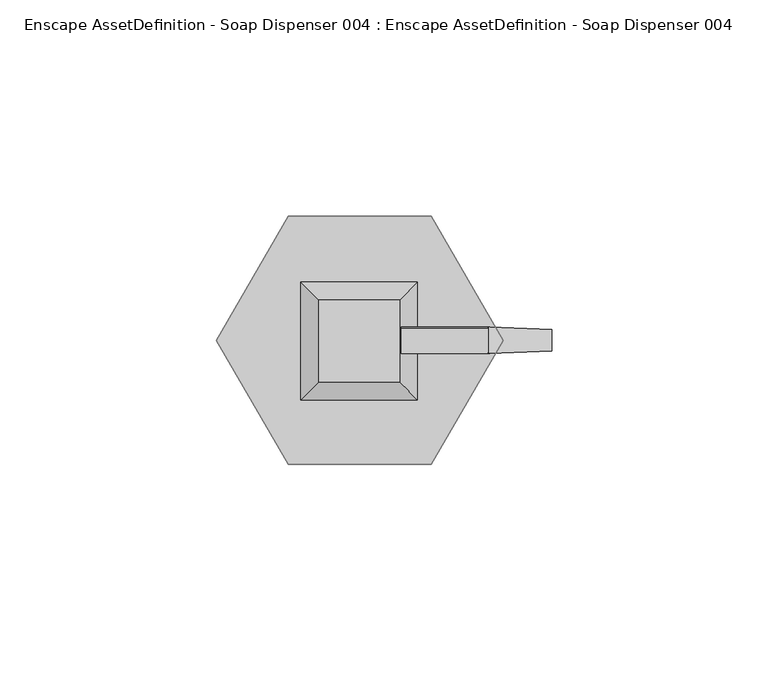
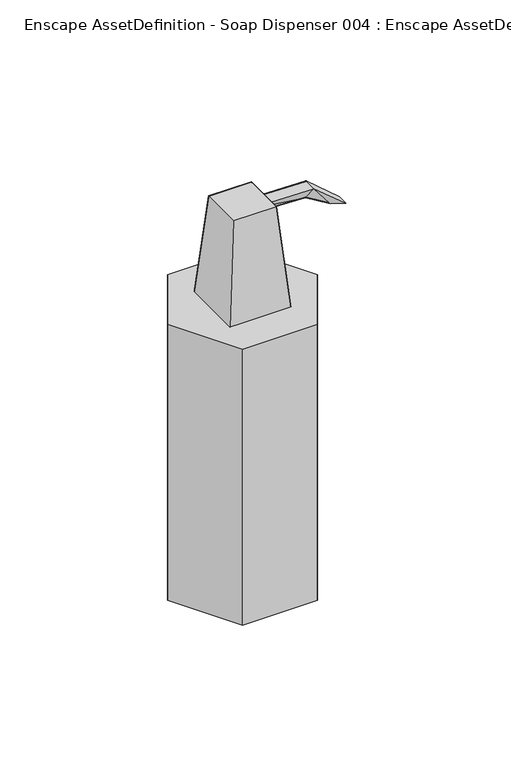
"""IFC4 building model written with IfcOpenShell, lengths in millimetres: geographic element geometry, Enscape AssetDefinition - Soap Dispenser 004 : Enscape AssetDefinition - Soap Dispenser 004."""

from ifc_helpers import new_model, si_unit, origin, place, context, project, spatial, triangles, source, transform, mapped, element, save


def enscape_assetdefinition_soap_dispenser_004_enscape_f50e4718(model_context):
    return source(origin(), model_context, "Body", "Tessellation", [
        triangles([(9.3650295, -9.7872569, 175.1410538), (-9.6221677, 9.4670849, 175.1410538), (-13.6973562, -13.9204757, 128.8732111), (-9.6221677, -9.7872569, 175.1410538), (-13.6973562, 13.6003043, 128.8732111), (9.3650295, 9.4670849, 175.1410538), (13.4412194, -13.9204757, 128.8732111), (13.4412194, 13.6003043, 128.8732111), (0.0, -3.0986643, 172.9909125), (0.0, 0.0, 167.9161859), (0.0, 3.0986643, 172.9909125), (27.8029314, 0.0, 166.976672), (29.8720434, -3.0986643, 172.253512), (44.3598196, 2.5123492, 160.1470199), (38.9319078, 0.0, 160.2310627), (44.3598196, -2.5123492, 160.1470199), (29.8720434, 3.0986643, 172.253512), (-33.1277926, 0.0, 0.0), (16.5638963, -28.6894075, 0.0), (-16.5638963, -28.6894075, 0.0), (-16.5638963, 28.6894075, 0.0), (16.5638963, 28.6894075, 0.0), (-33.1277926, 0.0, 129.0473011), (-16.5638963, -28.6894075, 129.0473011), (16.5638963, -28.6894075, 129.0473011), (33.1277926, 0.0, 0.0), (16.5638963, 28.6894075, 129.0473011), (33.1277926, 0.0, 129.0473011), (-16.5638963, 28.6894075, 129.0473011)], [[28, 27, 29], [29, 27, 22], [27, 28, 26], [26, 22, 27], [19, 26, 28], [28, 25, 19], [25, 28, 24], [28, 29, 24], [29, 23, 24], [23, 29, 21], [22, 21, 29], [21, 22, 26], [24, 23, 18], [21, 18, 23], [25, 24, 20], [20, 19, 25], [18, 20, 24], [19, 20, 26], [20, 21, 26], [20, 18, 21], [16, 14, 17], [17, 13, 16], [15, 16, 13], [14, 15, 12], [12, 17, 14], [13, 12, 15], [11, 17, 12], [12, 10, 11], [17, 11, 9], [9, 13, 17], [12, 13, 9], [9, 10, 12], [8, 5, 2], [2, 6, 8], [7, 8, 6], [6, 1, 7], [3, 7, 1], [4, 2, 5], [5, 3, 4], [1, 4, 3], [6, 2, 4], [4, 1, 6]], closed=False),
    ])


if __name__ == "__main__":
    model = new_model("IFC4")
    model_context = context("Model", 3, world=origin())
    ifc_project = project(units=[si_unit("LENGTHUNIT", "METRE", prefix="MILLI")], contexts=[model_context])
    site = spatial("IfcSite", under=ifc_project)
    building = spatial("IfcBuilding", under=site)
    placement = place(None, origin())
    enscape_assetdefinition_soap_dispenser_004_enscape_shape = enscape_assetdefinition_soap_dispenser_004_enscape_f50e4718(model_context)
    element("IfcGeographicElement", 1, ObjectType="Enscape AssetDefinition - Soap Dispenser 004 : Enscape AssetDefinition - Soap Dispenser 004", at=placement, inside=building, context=model_context, shape_type="MappedRepresentation", body=[
        mapped(enscape_assetdefinition_soap_dispenser_004_enscape_shape, transform((0.0, 0.0, 0.0), x_axis=(1.0, 0.0, 0.0), y_axis=(0.0, 1.0, 0.0), z_axis=(0.0, 0.0, 1.0))),
    ])
    save(model, "model.ifc")
